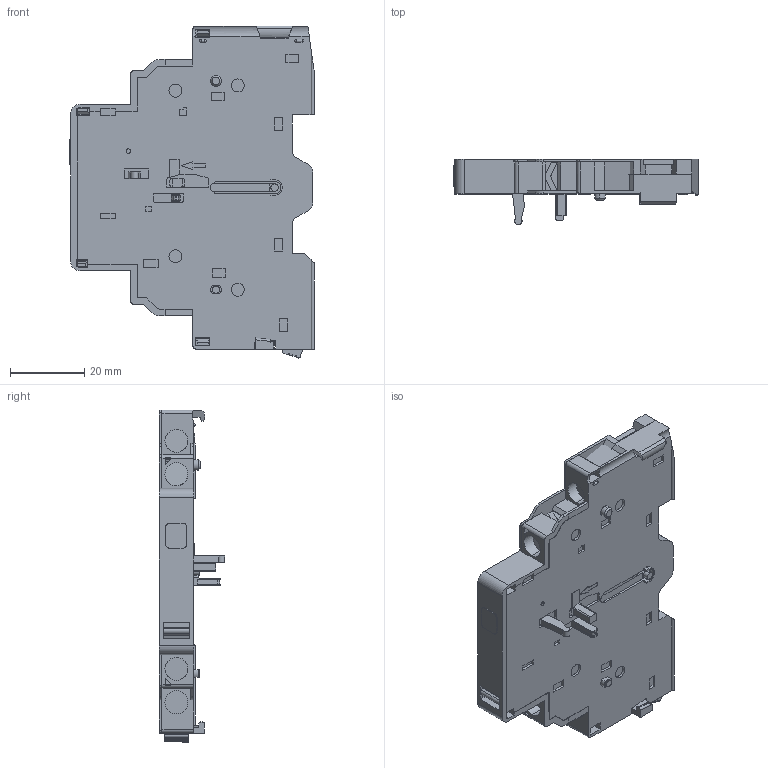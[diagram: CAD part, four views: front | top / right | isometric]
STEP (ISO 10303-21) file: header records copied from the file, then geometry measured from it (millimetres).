
FILE_DESCRIPTION((''),'2;1');
FILE_NAME('NS2-FA','2022-03-06T09:34:33',('lishuai1'),(''),'CREO PARAMETRIC BY PTC INC, 2020044','CREO PARAMETRIC BY PTC INC, 2020044','');
FILE_SCHEMA(('CONFIG_CONTROL_DESIGN','SHAPE_APPEARANCE_LAYERS_GROUPS'));
Length unit declared in the file: millimetre
Products named in the file (1): NS2-FA
Bounding box: 65.7 x 17.56 x 89.39 mm (x, y, z)
Surface area: 18974.8 mm2 (no closed solid volume)
Topology: 0 solids, 22 shells, 431 faces, 1811 edges, 1366 vertices
Faces by surface type: plane 336, cylinder 85, sphere 8, cone 2
Entity records: 18781 total; most frequent: CARTESIAN_POINT 3900, DIRECTION 2967, ORIENTED_EDGE 2792, EDGE_CURVE 1803, VECTOR 1439, LINE 1439, VERTEX_POINT 1368, AXIS2_PLACEMENT_3D 764
